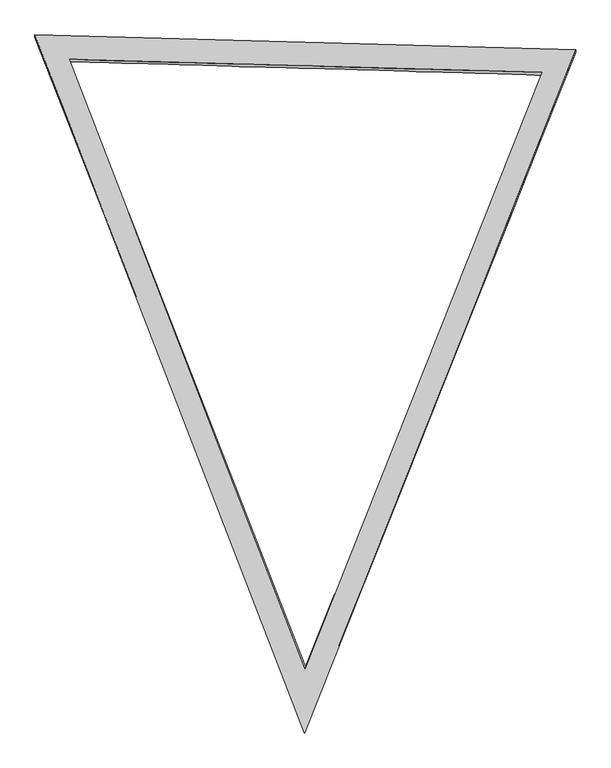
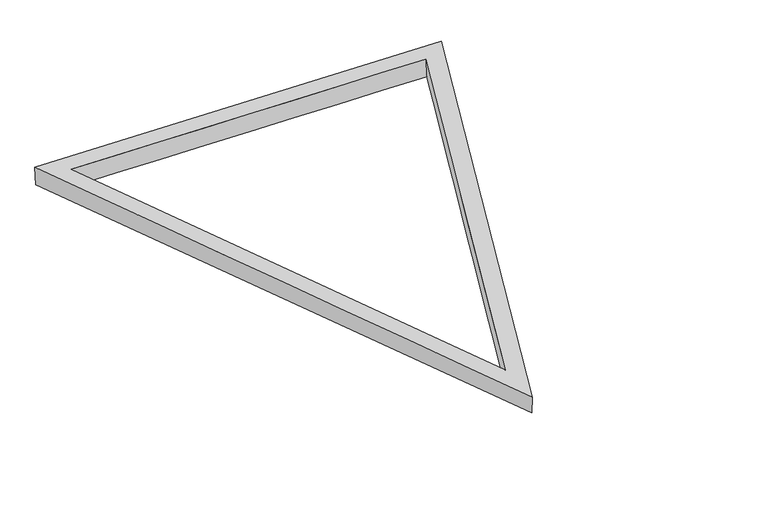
"""IFC4 building model written with IfcOpenShell, lengths in millimetres: plate geometry."""

from ifc_helpers import new_model, si_unit, frame, origin, place, context, project, spatial, source, transform, mapped, element, save
from ifc_brep_helpers import plane_surface, spline_surface, advanced_brep


def plate_bef25089(model_context):
    return source(origin(), model_context, "Body", "AdvancedBrep", [
        advanced_brep(
        [(4060.0015984, 6908.5214347, 0.0), (4059.3624518, 6927.5024745, 202.3111423), (6091.9552714, 1668.7924727, 202.110269), (6098.1159526, 1685.4753285, 0.0), (8137.2155613, 6815.3215441, 201.9517739), (8136.2303069, 6792.8765483, 0.0), (6096.0, 1131.9184351, 0.0), (8432.7744267, 6987.7451861, 0.0), (8433.4185731, 7010.4499332, 201.9265201), (6089.3279775, 1111.9682312, 202.1081727), (3759.2255733, 7120.3363788, 0.0), (3759.7556799, 7139.0214726, 202.3383954)],
        [
            (0, 1),
            (1, 2),
            (2, 3),
            (3, 0),
            (2, 4),
            (4, 5),
            (5, 3),
            (0, 5),
            (4, 1),
            (6, 7),
            (7, 8),
            (8, 9),
            (9, 6),
            (7, 10),
            (10, 11),
            (11, 8),
            (9, 11),
            (10, 6),
        ],
        [
            spline_surface(1, 1, [[(4060.0015984, 6908.5214347, 0.0), (6098.1159526, 1685.4753285, 0.0)], [(4059.3624518, 6927.5024745, 202.3111423), (6091.9552714, 1668.7924727, 202.110269)]], [2, 2], [2, 2], [0.0, 1.0], [0.0, 1.0]),
            spline_surface(1, 1, [[(6098.1159526, 1685.4753285, 0.0), (8136.2303069, 6792.8765483, 0.0)], [(6091.9552714, 1668.7924727, 202.110269), (8137.2155613, 6815.3215441, 201.9517739)]], [2, 2], [2, 2], [0.0, 1.0], [0.0, 1.0]),
            spline_surface(1, 1, [[(8136.2303069, 6792.8765483, 0.0), (4060.0015984, 6908.5214347, 0.0)], [(8137.2155613, 6815.3215441, 201.9517739), (4059.3624518, 6927.5024745, 202.3111423)]], [2, 2], [2, 2], [0.0, 1.0], [0.0, 1.0]),
            spline_surface(1, 1, [[(6096.0, 1131.9184351, 0.0), (6089.3279775, 1111.9682312, 202.1081727)], [(8432.7744267, 6987.7451861, 0.0), (8433.4185731, 7010.4499332, 201.9265201)]], [2, 2], [2, 2], [0.0, 1.0], [0.0, 1.0]),
            spline_surface(1, 1, [[(8432.7744267, 6987.7451861, 0.0), (8433.4185731, 7010.4499332, 201.9265201)], [(3759.2255733, 7120.3363788, 0.0), (3759.7556799, 7139.0214726, 202.3383954)]], [2, 2], [2, 2], [0.0, 1.0], [0.0, 1.0]),
            spline_surface(1, 1, [[(3759.2255733, 7120.3363788, 0.0), (3759.7556799, 7139.0214726, 202.3383954)], [(6096.0, 1131.9184351, 0.0), (6089.3279775, 1111.9682312, 202.1081727)]], [2, 2], [2, 2], [0.0, 1.0], [0.0, 1.0]),
            plane_surface(frame((6094.1674102, 5087.1465457, 202.1243628), z_axis=(8.801187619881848e-05, -4.1799290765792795e-06, 0.999999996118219), x_axis=(0.3605255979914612, -0.932749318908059, -3.562936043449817e-05))),
            plane_surface(frame((6096.0, 5080.0, 0.0), z_axis=(0.0, 0.0, -1.0000000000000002), x_axis=(-0.3635196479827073, 0.9315865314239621, 0.0))),
        ],
        [
            (0, [[1, 2, 3, 4]]),
            (1, [[-3, 5, 6, 7]]),
            (2, [[-1, 8, -6, 9]]),
            (3, [[10, 11, 12, 13]]),
            (4, [[-11, 14, 15, 16]]),
            (5, [[-13, 17, -15, 18]]),
            (6, [[-12, -16, -17], [-2, -9, -5]]),
            (7, [[-10, -18, -14], [-4, -7, -8]]),
        ],
    ),
    ])


if __name__ == "__main__":
    model = new_model("IFC4")
    model_context = context("Model", 3, world=origin())
    ifc_project = project(units=[si_unit("LENGTHUNIT", "METRE", prefix="MILLI")], contexts=[model_context])
    site = spatial("IfcSite", under=ifc_project)
    building = spatial("IfcBuilding", under=site)
    placement = place(None, origin())
    plate_shape = plate_bef25089(model_context)
    element("IfcPlate", 1, ObjectType="tn_cpanel_patbase_triangle_flat_seamless_frame_02_cylinder : tn_triangle_seamless_frame_t8\"xh8\"", at=placement, inside=building, context=model_context, shape_type="MappedRepresentation", body=[
        mapped(plate_shape, transform((0.0, 0.0, 0.0), x_axis=(1.0, 0.0, 0.0), y_axis=(0.0, 1.0, 0.0), z_axis=(0.0, 0.0, 1.0))),
    ])
    save(model, "model.ifc")
